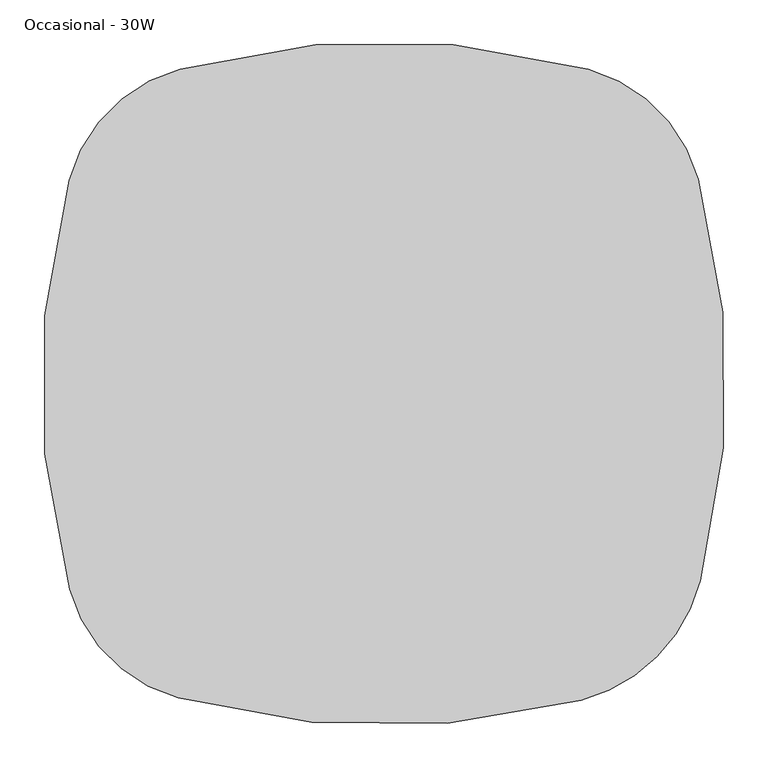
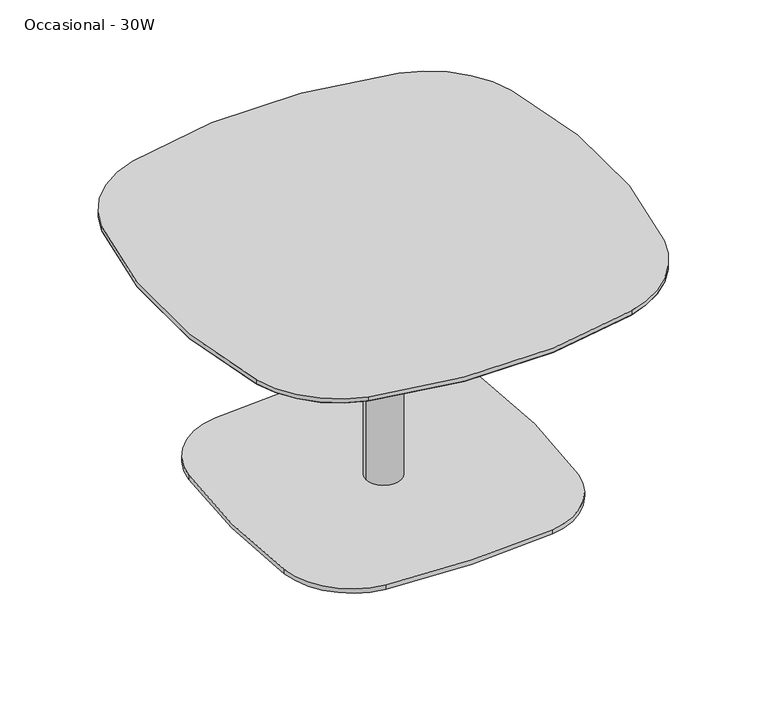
"""IFC4 building model written with IfcOpenShell, lengths in millimetres: furniture geometry, Steelcase Coalesse - Enea Lottus - Table - Square : Occasional - 30W."""

from ifc_helpers import new_model, si_unit, point, frame, frame_2d, origin, origin_with_axes, place, context, project, spatial, polyline, circle_curve, trimmed, segment, composite_curve, outline, extrude, source, transform, mapped, element, save
from ifc_brep_helpers import plane_surface, cylinder_surface, revolved_surface, advanced_brep


def occasional_30w_09bacb58(model_context):
    return source(origin(), model_context, "Body", "SolidModel", [
        extrude(outline(composite_curve([segment(trimmed(circle_curve(frame_2d((1509.974368, -376.5071652)), 1236.7220061), [point((281.8032791, -521.686698))], [point((280.9377567, -238.8469734))], False, "CARTESIAN"), True, "CONTINUOUS"), segment(trimmed(circle_curve(frame_2d((403.4276894, -252.5666523)), 123.2558851), [point((280.9377567, -238.8469734))], [point((389.5003313, -130.1001593))], False, "CARTESIAN"), True, "CONTINUOUS"), segment(trimmed(circle_curve(frame_2d((535.9787354, -1418.1187653)), 1296.3208909), [point((389.5003313, -130.1001593))], [point((674.0926007, -129.1764033))], False, "CARTESIAN"), True, "CONTINUOUS"), segment(trimmed(circle_curve(frame_2d((660.9484872, -251.8433394)), 123.3691409), [point((674.0926007, -129.1764033))], [point((783.3147441, -236.1448012))], False, "CARTESIAN"), True, "CONTINUOUS"), segment(trimmed(circle_curve(frame_2d((-345.1979189, -380.9232688)), 1137.7616777), [point((783.3147441, -236.1448012))], [point((783.0746872, -527.5607862))], False, "CARTESIAN"), True, "CONTINUOUS"), segment(trimmed(circle_curve(frame_2d((663.5787703, -512.0303333)), 120.5009093), [point((783.0746872, -527.5607862))], [point((677.7892611, -631.690398))], False, "CARTESIAN"), True, "CONTINUOUS"), segment(trimmed(circle_curve(frame_2d((533.4838484, 583.4396946)), 1223.6687436), [point((677.7892611, -631.690398))], [point((392.423073, -632.0713303))], False, "CARTESIAN"), True, "CONTINUOUS"), segment(trimmed(circle_curve(frame_2d((406.9500507, -506.8933602)), 126.0180832), [point((392.423073, -632.0713303))], [point((281.8032791, -521.686698))], False, "CARTESIAN"), True, "CONTINUOUS")], self_intersect=False)), frame((0.0, 0.0, 15.8781503), z_axis=(0.0, 0.0, 1.0), x_axis=(1.0, 0.0, 0.0)), (0.0, 0.0, 1.0), 7.874),
        advanced_brep(
        [(533.4, -350.5200727, 420.5266087), (533.4, -411.4799273, 420.5266087), (533.4, -381.0, 420.5266087), (533.4, -205.0011497, 441.0647446), (533.4, -556.9988503, 441.0647446), (533.4, -205.0011497, 444.4282142), (533.4, -556.9988503, 444.4282142), (533.4, -381.0, 444.4282142)],
        [
            (0, 1, circle_curve(frame((533.4, -381.0, 420.5266087), z_axis=(0.0, 0.0, -1.0), x_axis=(0.0, -1.0, 0.0)), 30.4799273)),
            (1, 2),
            (2, 0),
            (1, 0, circle_curve(frame((533.4, -381.0, 420.5266087), z_axis=(0.0, 0.0, -1.0), x_axis=(0.0, -1.0, 0.0)), 30.4799273)),
            (3, 4, circle_curve(frame((533.4, -381.0, 441.0647446), z_axis=(0.0, 0.0, -1.0), x_axis=(0.0, -1.0, 0.0)), 175.9988503)),
            (4, 1),
            (0, 3),
            (4, 3, circle_curve(frame((533.4, -381.0, 441.0647446), z_axis=(0.0, 0.0, -1.0), x_axis=(0.0, -1.0, 0.0)), 175.9988503)),
            (5, 6, circle_curve(frame((533.4, -381.0, 444.4282142), z_axis=(0.0, 0.0, -1.0), x_axis=(0.0, -1.0, 0.0)), 175.9988503)),
            (6, 4),
            (3, 5),
            (6, 5, circle_curve(frame((533.4, -381.0, 444.4282142), z_axis=(0.0, 0.0, -1.0), x_axis=(0.0, -1.0, 0.0)), 175.9988503)),
            (7, 6),
            (5, 7),
        ],
        [
            plane_surface(frame((533.4, -381.0, 420.5266087), z_axis=(0.0, 0.0, -1.0), x_axis=(0.0, -1.0, 0.0))),
            revolved_surface(polyline([(533.4, -411.4799273, 420.5266087), (533.4, -556.9988503, 441.0647446)]), (533.4, -381.0, 482.5282142), (0.0, 0.0, 1.0)),
            cylinder_surface(frame((533.4, -381.0, 482.5282142), z_axis=(0.0, 0.0, 1.0), x_axis=(0.0, -1.0, 0.0)), 175.9988503),
            plane_surface(frame((533.4, -381.0, 444.4282142), z_axis=(0.0, 0.0, 1.0), x_axis=(0.0, -1.0, 0.0))),
        ],
        [
            (0, [[1, 2, 3]]),
            (0, [[4, -3, -2]]),
            (1, [[5, 6, -1, 7]]),
            (1, [[8, -7, -4, -6]]),
            (2, [[9, 10, -5, 11]]),
            (2, [[12, -11, -8, -10]]),
            (3, [[13, -9, 14]]),
            (3, [[-14, -12, -13]]),
        ],
    ),
        extrude(outline(composite_curve([segment(trimmed(circle_curve(frame_2d((353.2869629, -200.285207)), 14.3047847), [point((367.5917475, -200.285207))], [point((338.9821782, -200.285207))], False, "CARTESIAN"), True, "CONTINUOUS"), segment(trimmed(circle_curve(frame_2d((353.2869629, -200.285207)), 14.3047847), [point((338.9821782, -200.285207))], [point((367.5917475, -200.285207))], False, "CARTESIAN"), True, "CONTINUOUS")], self_intersect=False)), origin_with_axes(), (0.0, 0.0, 1.0), 15.8781503),
        extrude(outline(composite_curve([segment(trimmed(circle_curve(frame_2d((713.7150647, -200.3948589)), 14.5554969), [point((728.2705616, -200.3948589))], [point((699.1595678, -200.3948589))], False, "CARTESIAN"), True, "CONTINUOUS"), segment(trimmed(circle_curve(frame_2d((713.7150647, -200.3948589)), 14.5554969), [point((699.1595678, -200.3948589))], [point((728.2705616, -200.3948589))], False, "CARTESIAN"), True, "CONTINUOUS")], self_intersect=False)), origin_with_axes(), (0.0, 0.0, 1.0), 15.8781503),
        extrude(outline(composite_curve([segment(trimmed(circle_curve(frame_2d((353.2758907, -561.3730895)), 14.3157366), [point((367.5916274, -561.3730895))], [point((338.9601541, -561.3730895))], False, "CARTESIAN"), True, "CONTINUOUS"), segment(trimmed(circle_curve(frame_2d((353.2758907, -561.3730895)), 14.3157366), [point((338.9601541, -561.3730895))], [point((367.5916274, -561.3730895))], False, "CARTESIAN"), True, "CONTINUOUS")], self_intersect=False)), origin_with_axes(), (0.0, 0.0, 1.0), 15.8781503),
        extrude(outline(composite_curve([segment(trimmed(circle_curve(frame_2d((713.9832703, -561.2887538)), 14.2874246), [point((728.2706949, -561.2887538))], [point((699.6958457, -561.2887538))], False, "CARTESIAN"), True, "CONTINUOUS"), segment(trimmed(circle_curve(frame_2d((713.9832703, -561.2887538)), 14.2874246), [point((699.6958457, -561.2887538))], [point((728.2706949, -561.2887538))], False, "CARTESIAN"), True, "CONTINUOUS")], self_intersect=False)), origin_with_axes(), (0.0, 0.0, 1.0), 15.8781503),
        extrude(outline(composite_curve([segment(trimmed(circle_curve(frame_2d((533.4002907, -380.9999273)), 30.48), [point((563.8802907, -380.9999273))], [point((502.9202907, -380.9999273))], False, "CARTESIAN"), True, "CONTINUOUS"), segment(trimmed(circle_curve(frame_2d((533.4002907, -380.9999273)), 30.48), [point((502.9202907, -380.9999273))], [point((563.8802907, -380.9999273))], False, "CARTESIAN"), True, "CONTINUOUS")], self_intersect=False)), frame((0.0, 0.0, 23.7521503), z_axis=(0.0, 0.0, 1.0), x_axis=(1.0, 0.0, 0.0)), (0.0, 0.0, 1.0), 396.7744584),
        advanced_brep(
        [(759.5492277, -41.3530981, 444.4282142), (873.5559937, -155.359864, 444.4282142), (875.7614957, -598.4783496, 444.4282142), (751.3874413, -722.852404, 444.4282142), (307.2348477, -720.3612291, 444.4282142), (194.5478627, -607.6742441, 444.4282142), (193.914801, -156.6242899, 444.4282142), (309.5333817, -41.0057092, 444.4282142), (762.9232121, -29.1094781, 449.647009), (306.1783042, -28.7568947, 449.647009), (181.6659865, -153.2692125, 449.647009), (182.3085144, -611.0636914, 449.647009), (303.8454004, -732.6005774, 449.647009), (754.639383, -735.1290027, 449.647009), (888.0380944, -601.7302912, 449.647009), (885.7996136, -151.9858797, 449.647009)],
        [
            (0, 1, circle_curve(frame((716.1813757, -198.7277161, 444.4282142), z_axis=(0.0, 0.0, -1.0), x_axis=(0.2656680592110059, 0.9640645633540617, 0.0)), 163.2407454)),
            (1, 2, circle_curve(frame((54.7460103, -381.0, 444.4282142), z_axis=(0.0, 0.0, -1.0), x_axis=(0.9640645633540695, 0.265668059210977, 0.0)), 849.3310661)),
            (2, 3, circle_curve(frame((706.5705403, -553.6614486, 444.4282142), z_axis=(0.0, 0.0, -1.0), x_axis=(0.9666613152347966, -0.25605839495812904, 0.0)), 175.0260952)),
            (3, 4, circle_curve(frame((533.9090918, 98.1630815, 444.4282142), z_axis=(0.0, 0.0, -1.0), x_axis=(0.2560583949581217, -0.9666613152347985, 0.0)), 849.3310661)),
            (4, 5, circle_curve(frame((350.3931383, -564.5159535, 444.4282142), z_axis=(0.0, 0.0, -1.0), x_axis=(-0.2668856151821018, -0.9637282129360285, 0.0)), 161.7108158)),
            (5, 6, circle_curve(frame((1013.0721732, -381.0000001, 444.4282131), z_axis=(-1.3376082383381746e-09, 0.0, -1.0), x_axis=(-0.9637282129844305, -0.2668856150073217, 1.2890838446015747e-09)), 849.3310661)),
            (6, 7, circle_curve(frame((353.1493887, -200.2402969, 444.4282142), z_axis=(0.0, -2.4166533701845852e-11, -1.0), x_axis=(-0.9644735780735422, 0.26417932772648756, -6.384306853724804e-12)), 165.1)),
            (7, 0, circle_curve(frame((533.9090918, -860.1630815, 444.4282142), z_axis=(0.0, -1.7896332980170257e-12, -1.0), x_axis=(-0.2641793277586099, 0.9644735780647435, -1.7226189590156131e-12)), 849.3310661)),
            (8, 9, circle_curve(frame((533.9090918, -860.1630815, 449.647009), z_axis=(0.0, 1.7896332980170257e-12, 1.0), x_axis=(-0.2641793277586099, 0.9644735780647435, -1.7226189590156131e-12)), 862.0310661)),
            (9, 10, circle_curve(frame((353.1493887, -200.2402969, 449.647009), z_axis=(0.0, 2.4166533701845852e-11, 1.0), x_axis=(-0.9644735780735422, 0.26417932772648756, -6.384306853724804e-12)), 177.8)),
            (10, 11, circle_curve(frame((1013.0721733, -381.0000001, 449.6470079), z_axis=(1.3376082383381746e-09, 0.0, 1.0), x_axis=(-0.9637282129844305, -0.2668856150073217, 1.2890838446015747e-09)), 862.0310661)),
            (11, 12, circle_curve(frame((350.3931383, -564.5159535, 449.647009), z_axis=(0.0, 0.0, 1.0), x_axis=(-0.2668856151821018, -0.9637282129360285, 0.0)), 174.4108158)),
            (12, 13, circle_curve(frame((533.9090918, 98.1630815, 449.647009), z_axis=(0.0, 0.0, 1.0), x_axis=(0.2560583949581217, -0.9666613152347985, 0.0)), 862.0310661)),
            (13, 14, circle_curve(frame((706.5705403, -553.6614486, 449.647009), z_axis=(0.0, 0.0, 1.0), x_axis=(0.9666613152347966, -0.25605839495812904, 0.0)), 187.7260952)),
            (14, 15, circle_curve(frame((54.7460103, -381.0, 449.647009), z_axis=(0.0, 0.0, 1.0), x_axis=(0.9640645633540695, 0.265668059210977, 0.0)), 862.0310661)),
            (15, 8, circle_curve(frame((716.1813757, -198.7277161, 449.647009), z_axis=(0.0, 0.0, 1.0), x_axis=(0.2656680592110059, 0.9640645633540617, 0.0)), 175.9407454)),
            (15, 1),
            (0, 8),
            (14, 2),
            (13, 3),
            (12, 4),
            (11, 5),
            (10, 6),
            (9, 7),
        ],
        [
            plane_surface(frame((533.1856314, -380.4636485, 444.4282142), z_axis=(0.0, 0.0, -1.0), x_axis=(-0.264179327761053, -0.9644735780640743, 0.0))),
            plane_surface(frame((533.1748136, -380.4556285, 449.647009), z_axis=(0.0, 0.0, 1.0), x_axis=(-0.264179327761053, -0.9644735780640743, 0.0))),
            revolved_surface(polyline([(759.5492277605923, -41.353098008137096, 444.4282142), (762.9232121, -29.10947809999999, 449.647009)]), (716.1813757, -198.7277161, 377.3479026), (0.0, 0.0, 1.0)),
            revolved_surface(polyline([(873.5559936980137, -155.35986403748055, 444.4282142), (885.7996136, -151.9858797, 449.647009)]), (54.7460103, -381.0, 95.4136811), (0.0, 0.0, 1.0)),
            revolved_surface(polyline([(875.7614957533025, -598.4783496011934, 444.4282142), (888.0380944, -601.7302912, 449.647009)]), (706.5705403, -553.6614486, 372.5049638), (0.0, 0.0, 1.0)),
            revolved_surface(polyline([(751.387441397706, -722.8524040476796, 444.4282142), (754.639383, -735.1290027, 449.647009)]), (533.9090918, 98.1630815, 95.4136811), (0.0, 0.0, 1.0)),
            revolved_surface(polyline([(307.234847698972, -720.361229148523, 444.4282142), (303.8454004, -732.6005774, 449.647009)]), (350.3931383, -564.5159535, 377.9765946), (0.0, 0.0, 1.0)),
            revolved_surface(polyline([(194.54786266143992, -607.6742440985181, 444.4282141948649), (182.30851437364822, -611.0636914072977, 449.64700901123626)]), (1013.0721728, -381.0000001, 95.4136812), (1.3376082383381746e-09, 0.0, 1.0)),
            revolved_surface(polyline([(193.914800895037, -156.62428994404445, 444.42821419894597), (181.66598649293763, -153.26921249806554, 449.6470090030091)]), (353.1493887, -200.2402969, 376.5838815), (0.0, 2.4166533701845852e-11, 1.0)),
            revolved_surface(polyline([(309.5333816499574, -41.0057090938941, 444.428214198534), (306.1783042, -28.756894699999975, 449.647009)]), (533.9090918, -860.1630815, 95.4136811), (0.0, 1.7896332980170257e-12, 1.0)),
        ],
        [
            (0, [[1, 2, 3, 4, 5, 6, 7, 8]]),
            (1, [[9, 10, 11, 12, 13, 14, 15, 16]]),
            (2, [[-16, 17, -1, 18]]),
            (3, [[-15, 19, -2, -17]]),
            (4, [[-14, 20, -3, -19]]),
            (5, [[-13, 21, -4, -20]]),
            (6, [[-12, 22, -5, -21]]),
            (7, [[-11, 23, -6, -22]]),
            (8, [[-10, 24, -7, -23]]),
            (9, [[-9, -18, -8, -24]]),
        ],
    ),
        extrude(outline(composite_curve([segment(trimmed(circle_curve(frame_2d((706.5705403, -553.6614486)), 187.7260952), [point((888.0380944, -601.7302912))], [point((754.639383, -735.1290027))], False, "CARTESIAN"), True, "CONTINUOUS"), segment(trimmed(circle_curve(frame_2d((533.9090918, 98.1630815)), 862.0310661), [point((754.639383, -735.1290027))], [point((303.8454004, -732.6005774))], False, "CARTESIAN"), True, "CONTINUOUS"), segment(trimmed(circle_curve(frame_2d((350.3931383, -564.5159535)), 174.4108158), [point((303.8454004, -732.6005774))], [point((182.3085144, -611.0636914))], False, "CARTESIAN"), True, "CONTINUOUS"), segment(trimmed(circle_curve(frame_2d((1013.0721732, -381.0)), 862.0310661), [point((182.3085144, -611.0636914))], [point((181.6659865, -153.2692125))], False, "CARTESIAN"), True, "CONTINUOUS"), segment(trimmed(circle_curve(frame_2d((353.1493887, -200.2402969)), 177.8), [point((181.6659865, -153.2692125))], [point((306.1783042, -28.7568947))], False, "CARTESIAN"), True, "CONTINUOUS"), segment(trimmed(circle_curve(frame_2d((533.9090918, -860.1630815)), 862.0310661), [point((306.1783042, -28.7568947))], [point((762.9232121, -29.1094781))], False, "CARTESIAN"), True, "CONTINUOUS"), segment(trimmed(circle_curve(frame_2d((716.1813757, -198.7277161)), 175.9407454), [point((762.9232121, -29.1094781))], [point((885.7996136, -151.9858797))], False, "CARTESIAN"), True, "CONTINUOUS"), segment(trimmed(circle_curve(frame_2d((54.7460103, -381.0)), 862.0310661), [point((885.7996136, -151.9858797))], [point((888.0380944, -601.7302912))], False, "CARTESIAN"), True, "CONTINUOUS")], self_intersect=False)), frame((0.0, 0.0, 449.647009), z_axis=(0.0, 0.0, 1.0), x_axis=(1.0, 0.0, 0.0)), (0.0, 0.0, 1.0), 7.552991),
    ])


if __name__ == "__main__":
    model = new_model("IFC4")
    model_context = context("Model", 3, world=origin())
    ifc_project = project(units=[si_unit("LENGTHUNIT", "METRE", prefix="MILLI")], contexts=[model_context])
    site = spatial("IfcSite", under=ifc_project)
    building = spatial("IfcBuilding", under=site)
    placement = place(None, origin())
    occasional_30w_shape = occasional_30w_09bacb58(model_context)
    element("IfcFurniture", 1, ObjectType="Steelcase Coalesse - Enea Lottus - Table - Square : Occasional - 30W", at=placement, inside=building, context=model_context, shape_type="MappedRepresentation", body=[
        mapped(occasional_30w_shape, transform((0.0, 0.0, 0.0), x_axis=(1.0, 0.0, 0.0), y_axis=(0.0, 1.0, 0.0), z_axis=(0.0, 0.0, 1.0))),
    ])
    save(model, "model.ifc")
